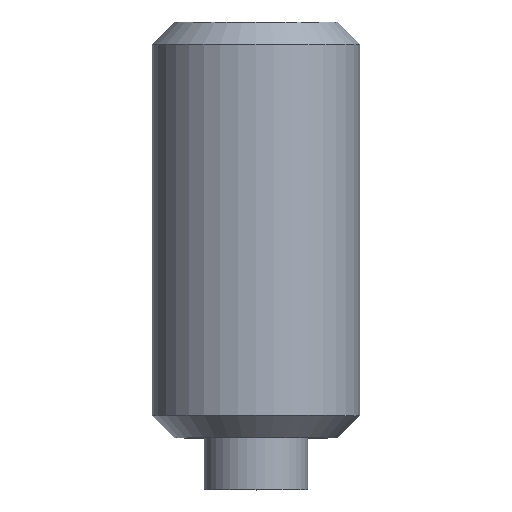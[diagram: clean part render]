
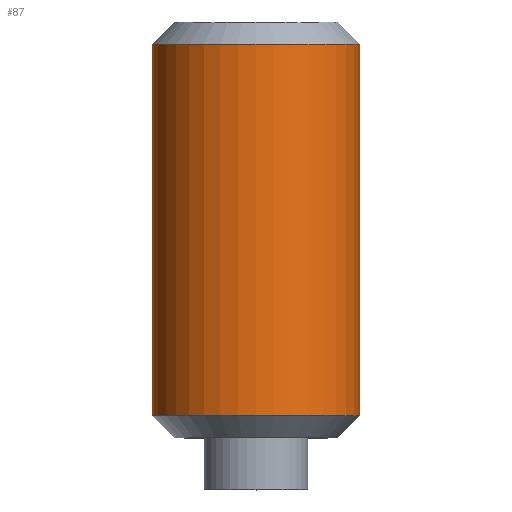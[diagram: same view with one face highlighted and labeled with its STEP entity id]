
A CAD part, top view. The second image highlights one B-rep face of the part: STEP entity #87.
In plain terms, the highlighted cylindrical face has radius 2 mm (diameter 4 mm), a full revolution.
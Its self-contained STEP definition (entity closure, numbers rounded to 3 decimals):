
#87 = ADVANCED_FACE( '', ( #118, #119 ), #120, .T. );
#118 = FACE_OUTER_BOUND( '', #152, .T. );
#119 = FACE_OUTER_BOUND( '', #153, .T. );
#120 = CYLINDRICAL_SURFACE( '', #154, 2. );
#152 = EDGE_LOOP( '', ( #238 ) );
#153 = EDGE_LOOP( '', ( #239 ) );
#154 = AXIS2_PLACEMENT_3D( '', #240, #241, #242 );
#238 = ORIENTED_EDGE( '', *, *, #270, .F. );
#239 = ORIENTED_EDGE( '', *, *, #271, .T. );
#240 = CARTESIAN_POINT( '', ( 0., 0., 0. ) );
#241 = DIRECTION( '', ( 0., 1., 0. ) );
#242 = DIRECTION( '', ( 0., 0., -1. ) );
#270 = EDGE_CURVE( '', #310, #310, #311, .T. );
#271 = EDGE_CURVE( '', #312, #312, #313, .T. );
#310 = VERTEX_POINT( '', #370 );
#311 = CIRCLE( '', #371, 2. );
#312 = VERTEX_POINT( '', #372 );
#313 = CIRCLE( '', #373, 2. );
#370 = CARTESIAN_POINT( '', ( 0., 1.43, -2. ) );
#371 = AXIS2_PLACEMENT_3D( '', #404, #405, #406 );
#372 = CARTESIAN_POINT( '', ( 0., 8.571, -2. ) );
#373 = AXIS2_PLACEMENT_3D( '', #407, #408, #409 );
#404 = CARTESIAN_POINT( '', ( 0., 1.43, 0. ) );
#405 = DIRECTION( '', ( 0., -1., 0. ) );
#406 = DIRECTION( '', ( 0., 0., -1. ) );
#407 = CARTESIAN_POINT( '', ( 0., 8.571, 0. ) );
#408 = DIRECTION( '', ( 0., -1., 0. ) );
#409 = DIRECTION( '', ( 0., 0., -1. ) );
